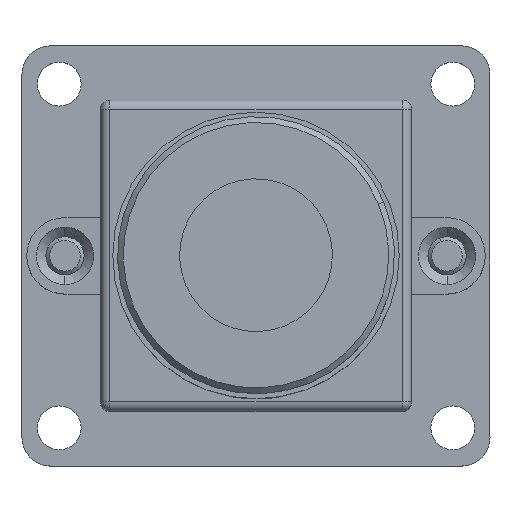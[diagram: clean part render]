
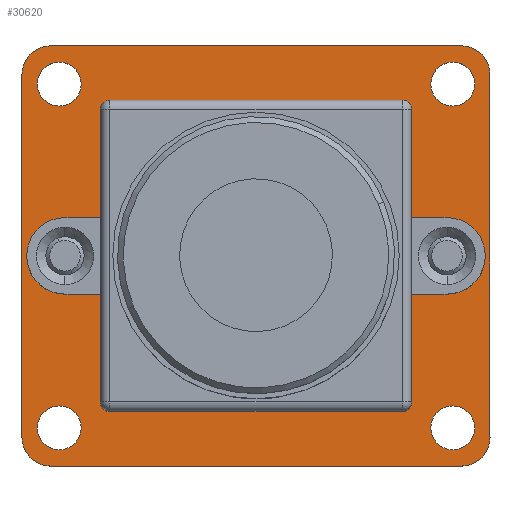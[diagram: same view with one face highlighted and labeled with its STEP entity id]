
A CAD part, top view. The second image highlights one B-rep face of the part: STEP entity #30620.
In plain terms, the highlighted planar face has unit normal (0, 0, 1).
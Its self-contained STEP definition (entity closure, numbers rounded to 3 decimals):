
#30109=CARTESIAN_POINT('',(-14.088,-11.116,
0.44));
#30110=DIRECTION('',(0.,0.,1.));
#30111=DIRECTION('',(-1.,-0.002,0.));
#30112=AXIS2_PLACEMENT_3D('',#30109,#30110,#30111);
#30114=DIRECTION('',(0.,-1.,0.));
#30115=VECTOR('',#30114,19.);
#30116=CARTESIAN_POINT('',(-15.59,7.882,
0.44));
#30117=LINE('',#30116,#30115);
#30118=CARTESIAN_POINT('',(-14.089,7.882,
0.44));
#30119=DIRECTION('',(0.,0.,1.));
#30120=DIRECTION('',(0.,1.,0.));
#30121=AXIS2_PLACEMENT_3D('',#30118,#30119,#30120);
#30123=DIRECTION('',(-1.,0.,0.));
#30124=VECTOR('',#30123,21.5);
#30125=CARTESIAN_POINT('',(7.41,9.382,
0.44));
#30126=LINE('',#30125,#30124);
#30127=CARTESIAN_POINT('',(7.411,7.883,
0.44));
#30128=DIRECTION('',(0.,0.,1.));
#30129=DIRECTION('',(1.,-0.001,0.));
#30130=AXIS2_PLACEMENT_3D('',#30127,#30128,#30129);
#30132=DIRECTION('',(0.,1.,0.));
#30133=VECTOR('',#30132,18.999);
#30134=CARTESIAN_POINT('',(8.91,-11.118,
0.44));
#30135=LINE('',#30134,#30133);
#30136=CARTESIAN_POINT('',(7.41,-11.117,
0.44));
#30137=DIRECTION('',(0.,0.,1.));
#30138=DIRECTION('',(0.,-1.,0.));
#30139=AXIS2_PLACEMENT_3D('',#30136,#30137,#30138);
#30141=DIRECTION('',(1.,0.,0.));
#30142=VECTOR('',#30141,21.5);
#30143=CARTESIAN_POINT('',(-14.09,-12.618,
0.44));
#30144=LINE('',#30143,#30142);
#30145=CARTESIAN_POINT('',(6.96,7.382,
0.44));
#30146=DIRECTION('',(0.,0.,-1.));
#30147=DIRECTION('',(-1.,0.,0.));
#30148=AXIS2_PLACEMENT_3D('',#30145,#30146,#30147);
#30150=CARTESIAN_POINT('',(6.96,7.382,
0.44));
#30151=DIRECTION('',(0.,0.,-1.));
#30152=DIRECTION('',(1.,0.,0.));
#30153=AXIS2_PLACEMENT_3D('',#30150,#30151,#30152);
#30155=CARTESIAN_POINT('',(6.66,-1.618,
0.44));
#30156=DIRECTION('',(0.,0.,1.));
#30157=DIRECTION('',(1.,0.,0.));
#30158=AXIS2_PLACEMENT_3D('',#30155,#30156,#30157);
#30160=CARTESIAN_POINT('',(6.66,-1.618,
0.44));
#30161=DIRECTION('',(0.,0.,1.));
#30162=DIRECTION('',(-1.,0.,0.));
#30163=AXIS2_PLACEMENT_3D('',#30160,#30161,#30162);
#30165=CARTESIAN_POINT('',(6.96,-10.618,
0.44));
#30166=DIRECTION('',(0.,0.,-1.));
#30167=DIRECTION('',(-1.,0.,0.));
#30168=AXIS2_PLACEMENT_3D('',#30165,#30166,#30167);
#30170=CARTESIAN_POINT('',(6.96,-10.618,
0.44));
#30171=DIRECTION('',(0.,0.,-1.));
#30172=DIRECTION('',(1.,0.,0.));
#30173=AXIS2_PLACEMENT_3D('',#30170,#30171,#30172);
#30175=CARTESIAN_POINT('',(-13.34,-1.618,
0.44));
#30176=DIRECTION('',(0.,0.,1.));
#30177=DIRECTION('',(1.,0.,0.));
#30178=AXIS2_PLACEMENT_3D('',#30175,#30176,#30177);
#30180=CARTESIAN_POINT('',(-13.34,-1.618,
0.44));
#30181=DIRECTION('',(0.,0.,1.));
#30182=DIRECTION('',(-1.,0.,0.));
#30183=AXIS2_PLACEMENT_3D('',#30180,#30181,#30182);
#30185=CARTESIAN_POINT('',(-13.64,7.382,
0.44));
#30186=DIRECTION('',(0.,0.,-1.));
#30187=DIRECTION('',(-1.,0.,0.));
#30188=AXIS2_PLACEMENT_3D('',#30185,#30186,#30187);
#30190=CARTESIAN_POINT('',(-13.64,7.382,
0.44));
#30191=DIRECTION('',(0.,0.,-1.));
#30192=DIRECTION('',(1.,0.,0.));
#30193=AXIS2_PLACEMENT_3D('',#30190,#30191,#30192);
#30195=CARTESIAN_POINT('',(-13.64,-10.618,
0.44));
#30196=DIRECTION('',(0.,0.,-1.));
#30197=DIRECTION('',(-1.,0.,0.));
#30198=AXIS2_PLACEMENT_3D('',#30195,#30196,#30197);
#30200=CARTESIAN_POINT('',(-13.64,-10.618,
0.44));
#30201=DIRECTION('',(0.,0.,-1.));
#30202=DIRECTION('',(1.,0.,0.));
#30203=AXIS2_PLACEMENT_3D('',#30200,#30201,#30202);
#30233=CARTESIAN_POINT('',(-12.24,-1.618,
0.44));
#30234=CARTESIAN_POINT('',(-14.44,-1.618,
0.44));
#30235=VERTEX_POINT('',#30233);
#30236=VERTEX_POINT('',#30234);
#30241=CARTESIAN_POINT('',(-14.09,-12.618,
0.44));
#30242=CARTESIAN_POINT('',(7.41,-12.618,
0.44));
#30243=VERTEX_POINT('',#30241);
#30244=VERTEX_POINT('',#30242);
#30246=CARTESIAN_POINT('',(7.41,9.382,
0.44));
#30248=VERTEX_POINT('',#30246);
#30249=CARTESIAN_POINT('',(-14.09,9.382,
0.44));
#30250=VERTEX_POINT('',#30249);
#30251=CARTESIAN_POINT('',(5.81,-10.618,
0.44));
#30252=CARTESIAN_POINT('',(8.11,-10.618,
0.44));
#30253=VERTEX_POINT('',#30251);
#30254=VERTEX_POINT('',#30252);
#30259=CARTESIAN_POINT('',(-14.79,-10.618,
0.44));
#30260=CARTESIAN_POINT('',(-12.49,-10.618,
0.44));
#30261=VERTEX_POINT('',#30259);
#30262=VERTEX_POINT('',#30260);
#30277=CARTESIAN_POINT('',(5.56,-1.618,
0.44));
#30278=CARTESIAN_POINT('',(7.76,-1.618,
0.44));
#30279=VERTEX_POINT('',#30277);
#30280=VERTEX_POINT('',#30278);
#30287=CARTESIAN_POINT('',(-15.59,7.882,
0.44));
#30288=VERTEX_POINT('',#30287);
#30290=CARTESIAN_POINT('',(-12.49,7.382,
0.44));
#30292=VERTEX_POINT('',#30290);
#30293=CARTESIAN_POINT('',(8.91,-11.118,
0.44));
#30294=VERTEX_POINT('',#30293);
#30298=CARTESIAN_POINT('',(-14.79,7.382,
0.44));
#30300=VERTEX_POINT('',#30298);
#30301=CARTESIAN_POINT('',(8.11,7.382,
0.44));
#30302=CARTESIAN_POINT('',(5.81,7.382,
0.44));
#30303=VERTEX_POINT('',#30301);
#30304=VERTEX_POINT('',#30302);
#30305=CARTESIAN_POINT('',(-15.59,-11.118,
0.44));
#30306=VERTEX_POINT('',#30305);
#30307=CARTESIAN_POINT('',(8.91,7.881,
0.44));
#30308=VERTEX_POINT('',#30307);
#30570=CARTESIAN_POINT('',(-3.34,-1.618,
0.44));
#30571=DIRECTION('',(0.,0.,-1.));
#30572=DIRECTION('',(0.,-1.,0.));
#30573=AXIS2_PLACEMENT_3D('',#30570,#30571,#30572);
#30574=PLANE('',#30573);
#30575=ORIENTED_EDGE('',*,*,#30412,.F.);
#30576=ORIENTED_EDGE('',*,*,#30390,.F.);
#30577=ORIENTED_EDGE('',*,*,#30368,.F.);
#30578=ORIENTED_EDGE('',*,*,#30346,.F.);
#30579=ORIENTED_EDGE('',*,*,#30324,.F.);
#30580=ORIENTED_EDGE('',*,*,#30477,.F.);
#30581=ORIENTED_EDGE('',*,*,#30456,.F.);
#30582=ORIENTED_EDGE('',*,*,#30434,.F.);
#30583=EDGE_LOOP('',(#30575,#30576,#30577,#30578,#30579,#30580,#30581,#30582));
#30584=FACE_OUTER_BOUND('',#30583,.F.);
#30585=ORIENTED_EDGE('',*,*,#30553,.F.);
#30587=ORIENTED_EDGE('',*,*,#30586,.F.);
#30588=EDGE_LOOP('',(#30585,#30587));
#30589=FACE_BOUND('',#30588,.F.);
#30591=ORIENTED_EDGE('',*,*,#30590,.T.);
#30593=ORIENTED_EDGE('',*,*,#30592,.T.);
#30594=EDGE_LOOP('',(#30591,#30593));
#30595=FACE_BOUND('',#30594,.F.);
#30597=ORIENTED_EDGE('',*,*,#30596,.F.);
#30599=ORIENTED_EDGE('',*,*,#30598,.F.);
#30600=EDGE_LOOP('',(#30597,#30599));
#30601=FACE_BOUND('',#30600,.F.);
#30603=ORIENTED_EDGE('',*,*,#30602,.T.);
#30605=ORIENTED_EDGE('',*,*,#30604,.T.);
#30606=EDGE_LOOP('',(#30603,#30605));
#30607=FACE_BOUND('',#30606,.F.);
#30609=ORIENTED_EDGE('',*,*,#30608,.F.);
#30611=ORIENTED_EDGE('',*,*,#30610,.F.);
#30612=EDGE_LOOP('',(#30609,#30611));
#30613=FACE_BOUND('',#30612,.F.);
#30615=ORIENTED_EDGE('',*,*,#30614,.F.);
#30617=ORIENTED_EDGE('',*,*,#30616,.F.);
#30618=EDGE_LOOP('',(#30615,#30617));
#30619=FACE_BOUND('',#30618,.F.);
#30113=CIRCLE('',#30112,1.502);
#30122=CIRCLE('',#30121,1.501);
#30131=CIRCLE('',#30130,1.499);
#30140=CIRCLE('',#30139,1.501);
#30149=CIRCLE('',#30148,1.15);
#30154=CIRCLE('',#30153,1.15);
#30159=CIRCLE('',#30158,1.1);
#30164=CIRCLE('',#30163,1.1);
#30169=CIRCLE('',#30168,1.15);
#30174=CIRCLE('',#30173,1.15);
#30179=CIRCLE('',#30178,1.1);
#30184=CIRCLE('',#30183,1.1);
#30189=CIRCLE('',#30188,1.15);
#30194=CIRCLE('',#30193,1.15);
#30199=CIRCLE('',#30198,1.15);
#30204=CIRCLE('',#30203,1.15);
#30324=EDGE_CURVE('',#30308,#30248,#30131,.T.);
#30346=EDGE_CURVE('',#30248,#30250,#30126,.T.);
#30368=EDGE_CURVE('',#30250,#30288,#30122,.T.);
#30390=EDGE_CURVE('',#30288,#30306,#30117,.T.);
#30412=EDGE_CURVE('',#30306,#30243,#30113,.T.);
#30434=EDGE_CURVE('',#30243,#30244,#30144,.T.);
#30456=EDGE_CURVE('',#30244,#30294,#30140,.T.);
#30477=EDGE_CURVE('',#30294,#30308,#30135,.T.);
#30553=EDGE_CURVE('',#30304,#30303,#30149,.T.);
#30586=EDGE_CURVE('',#30303,#30304,#30154,.T.);
#30590=EDGE_CURVE('',#30280,#30279,#30159,.T.);
#30592=EDGE_CURVE('',#30279,#30280,#30164,.T.);
#30596=EDGE_CURVE('',#30253,#30254,#30169,.T.);
#30598=EDGE_CURVE('',#30254,#30253,#30174,.T.);
#30602=EDGE_CURVE('',#30235,#30236,#30179,.T.);
#30604=EDGE_CURVE('',#30236,#30235,#30184,.T.);
#30608=EDGE_CURVE('',#30300,#30292,#30189,.T.);
#30610=EDGE_CURVE('',#30292,#30300,#30194,.T.);
#30614=EDGE_CURVE('',#30261,#30262,#30199,.T.);
#30616=EDGE_CURVE('',#30262,#30261,#30204,.T.);
#30620=ADVANCED_FACE('',(#30584,#30589,#30595,#30601,#30607,#30613,#30619),
#30574,.F.);
